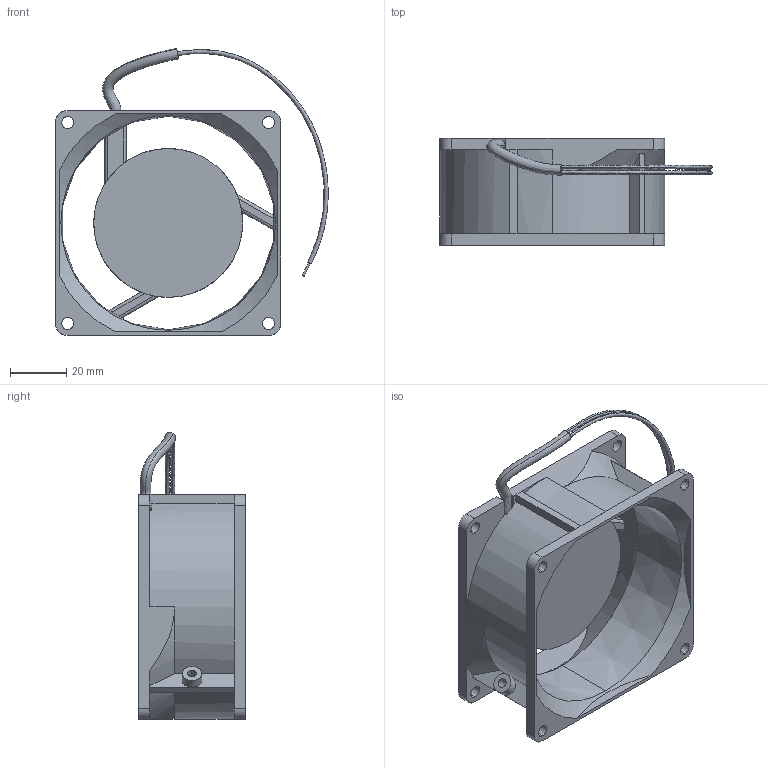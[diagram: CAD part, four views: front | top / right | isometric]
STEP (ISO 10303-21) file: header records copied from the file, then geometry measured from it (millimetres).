
FILE_DESCRIPTION (( 'STEP AP214' ), '1' );
FILE_NAME ('A08B_F_casing (p.c.).STEP', '2019-05-07T10:05:55', ( 'ced' ), ( 'Hewlett-Packard Company' ), 'SwSTEP 2.0', 'SolidWorks 2017', '' );
FILE_SCHEMA (( 'AUTOMOTIVE_DESIGN' ));
Length unit declared in the file: millimetre
Products named in the file (1): A08B_F_casing (p.c.)
Bounding box: 96.93 x 38 x 102.24 mm (x, y, z)
Surface area: 35331.6 mm2 (no closed solid volume)
Topology: 0 solids, 7 shells, 159 faces, 455 edges, 306 vertices
Faces by surface type: plane 80, cylinder 57, cone 13, bspline 9
Entity records: 8367 total; most frequent: CARTESIAN_POINT 4438, ORIENTED_EDGE 872, DIRECTION 672, EDGE_CURVE 455, VERTEX_POINT 306, AXIS2_PLACEMENT_3D 240, LINE 192, VECTOR 192
